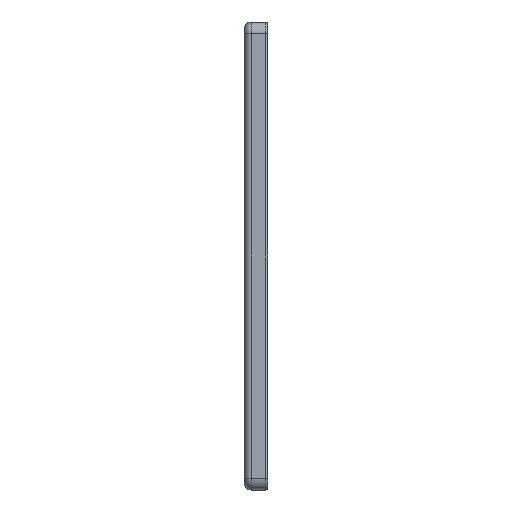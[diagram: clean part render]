
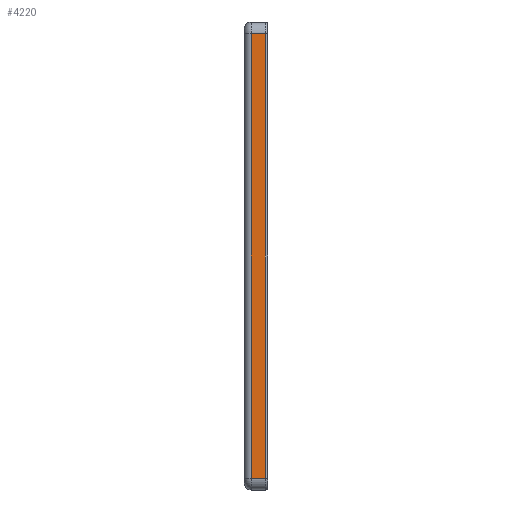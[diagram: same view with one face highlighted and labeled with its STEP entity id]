
A CAD part, left-side view. The second image highlights one B-rep face of the part: STEP entity #4220.
In plain terms, the highlighted planar face has unit normal (-1, 0, 0).
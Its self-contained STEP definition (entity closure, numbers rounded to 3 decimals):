
#433 = AXIS2_PLACEMENT_3D ( 'NONE', #1045, #1049, #1050 ) ;
#1045 = CARTESIAN_POINT ( 'NONE',  ( -200., 10., -100. ) ) ;
#1046 = PLANE ( 'NONE',  #433 ) ;
#1049 = DIRECTION ( 'NONE',  ( 1., 0., 0. ) ) ;
#1050 = DIRECTION ( 'NONE',  ( 0., 0., -1. ) ) ;
#1820 = VERTEX_POINT ( 'NONE', #3080 ) ;
#1822 = VERTEX_POINT ( 'NONE', #3092 ) ;
#1869 = VERTEX_POINT ( 'NONE', #3434 ) ;
#1893 = VERTEX_POINT ( 'NONE', #3442 ) ;
#2096 = FACE_OUTER_BOUND ( 'NONE', #3724, .T. ) ;
#2725 = EDGE_CURVE ( 'NONE', #1822, #1893, #3378, .T. ) ;
#2726 = EDGE_CURVE ( 'NONE', #1893, #1869, #3368, .T. ) ;
#2727 = EDGE_CURVE ( 'NONE', #1869, #1820, #3382, .T. ) ;
#2728 = EDGE_CURVE ( 'NONE', #1820, #1822, #3384, .T. ) ;
#3080 = CARTESIAN_POINT ( 'NONE',  ( -200., 7., 95. ) ) ;
#3092 = CARTESIAN_POINT ( 'NONE',  ( -200., 7., -95. ) ) ;
#3203 = CARTESIAN_POINT ( 'NONE',  ( -200., 1., -100. ) ) ;
#3368 = LINE ( 'NONE', #3203, #3383 ) ;
#3378 = LINE ( 'NONE', #3923, #3381 ) ;
#3381 = VECTOR ( 'NONE', #3924, 1000. ) ;
#3382 = LINE ( 'NONE', #3926, #3385 ) ;
#3383 = VECTOR ( 'NONE', #3925, 1000. ) ;
#3384 = LINE ( 'NONE', #3928, #3387 ) ;
#3385 = VECTOR ( 'NONE', #3927, 1000. ) ;
#3387 = VECTOR ( 'NONE', #3929, 1000. ) ;
#3434 = CARTESIAN_POINT ( 'NONE',  ( -200., 1., 95. ) ) ;
#3442 = CARTESIAN_POINT ( 'NONE',  ( -200., 1., -95. ) ) ;
#3724 = EDGE_LOOP ( 'NONE', ( #5507, #5508, #5509, #5510 ) ) ;
#3923 = CARTESIAN_POINT ( 'NONE',  ( -200., 10., -95. ) ) ;
#3924 = DIRECTION ( 'NONE',  ( 0., -1., 0. ) ) ;
#3925 = DIRECTION ( 'NONE',  ( 0., 0., 1. ) ) ;
#3926 = CARTESIAN_POINT ( 'NONE',  ( -200., 10., 95. ) ) ;
#3927 = DIRECTION ( 'NONE',  ( 0., 1., 0. ) ) ;
#3928 = CARTESIAN_POINT ( 'NONE',  ( -200., 7., -95. ) ) ;
#3929 = DIRECTION ( 'NONE',  ( 0., 0., -1. ) ) ;
#4220 = ADVANCED_FACE ( 'NONE', ( #2096 ), #1046, .F. ) ;
#5507 = ORIENTED_EDGE ( 'NONE', *, *, #2725, .T. ) ;
#5508 = ORIENTED_EDGE ( 'NONE', *, *, #2726, .T. ) ;
#5509 = ORIENTED_EDGE ( 'NONE', *, *, #2727, .T. ) ;
#5510 = ORIENTED_EDGE ( 'NONE', *, *, #2728, .T. ) ;
